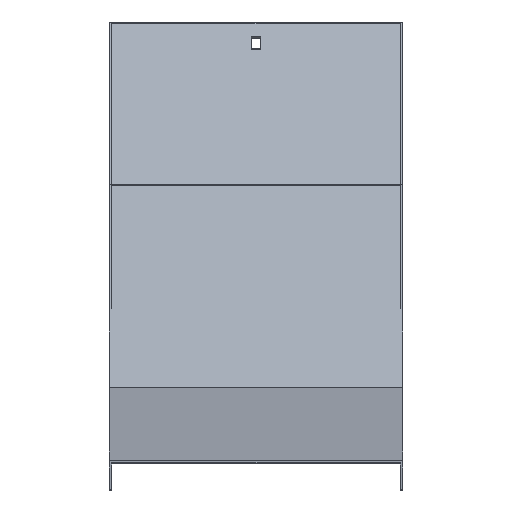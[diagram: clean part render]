
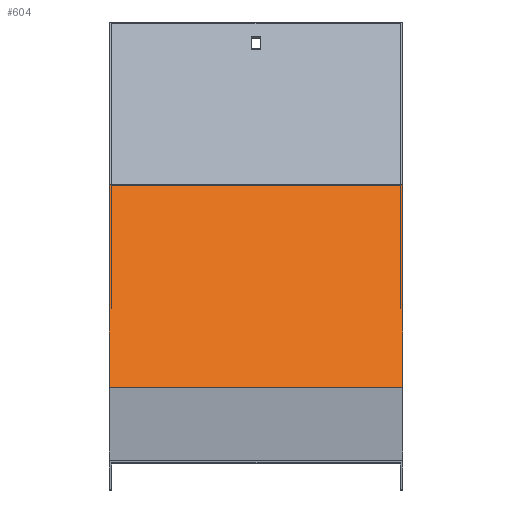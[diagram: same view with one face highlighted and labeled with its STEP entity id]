
A CAD part, top view. The second image highlights one B-rep face of the part: STEP entity #604.
In plain terms, the highlighted planar face has unit normal (0, 0.707, 0.707).
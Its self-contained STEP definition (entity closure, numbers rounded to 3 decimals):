
#18 = CARTESIAN_POINT ( 'NONE',  ( -101.5, 192.219, -462.933 ) ) ;
#21 = DIRECTION ( 'NONE',  ( -1., 0., 0. ) ) ;
#71 = EDGE_LOOP ( 'NONE', ( #470, #119, #413, #741 ) ) ;
#83 = DIRECTION ( 'NONE',  ( -1., 0., 0. ) ) ;
#108 = CARTESIAN_POINT ( 'NONE',  ( -101.5, 51.505, -322.219 ) ) ;
#119 = ORIENTED_EDGE ( 'NONE', *, *, #193, .F. ) ;
#141 = CARTESIAN_POINT ( 'NONE',  ( 101.5, 192.219, -462.933 ) ) ;
#193 = EDGE_CURVE ( 'NONE', #454, #891, #296, .T. ) ;
#201 = EDGE_CURVE ( 'NONE', #454, #528, #312, .T. ) ;
#236 = PLANE ( 'NONE',  #282 ) ;
#244 = VECTOR ( 'NONE', #643, 1000. ) ;
#253 = LINE ( 'NONE', #334, #551 ) ;
#282 = AXIS2_PLACEMENT_3D ( 'NONE', #956, #556, #789 ) ;
#296 = LINE ( 'NONE', #464, #744 ) ;
#301 = EDGE_CURVE ( 'NONE', #891, #544, #253, .T. ) ;
#312 = LINE ( 'NONE', #868, #244 ) ;
#327 = DIRECTION ( 'NONE',  ( 0., 0.707, -0.707 ) ) ;
#334 = CARTESIAN_POINT ( 'NONE',  ( -101.5, 51.505, -322.219 ) ) ;
#413 = ORIENTED_EDGE ( 'NONE', *, *, #201, .T. ) ;
#442 = LINE ( 'NONE', #141, #463 ) ;
#454 = VERTEX_POINT ( 'NONE', #633 ) ;
#463 = VECTOR ( 'NONE', #21, 1000. ) ;
#464 = CARTESIAN_POINT ( 'NONE',  ( 101.5, 51.505, -322.219 ) ) ;
#470 = ORIENTED_EDGE ( 'NONE', *, *, #301, .F. ) ;
#528 = VERTEX_POINT ( 'NONE', #852 ) ;
#544 = VERTEX_POINT ( 'NONE', #18 ) ;
#551 = VECTOR ( 'NONE', #327, 1000. ) ;
#556 = DIRECTION ( 'NONE',  ( 0., 0.707, 0.707 ) ) ;
#566 = EDGE_CURVE ( 'NONE', #528, #544, #442, .T. ) ;
#604 = ADVANCED_FACE ( 'NONE', ( #794 ), #236, .T. ) ;
#633 = CARTESIAN_POINT ( 'NONE',  ( 101.5, 51.505, -322.219 ) ) ;
#643 = DIRECTION ( 'NONE',  ( 0., 0.707, -0.707 ) ) ;
#741 = ORIENTED_EDGE ( 'NONE', *, *, #566, .T. ) ;
#744 = VECTOR ( 'NONE', #83, 1000. ) ;
#789 = DIRECTION ( 'NONE',  ( 0., -0.707, 0.707 ) ) ;
#794 = FACE_OUTER_BOUND ( 'NONE', #71, .T. ) ;
#852 = CARTESIAN_POINT ( 'NONE',  ( 101.5, 192.219, -462.933 ) ) ;
#868 = CARTESIAN_POINT ( 'NONE',  ( 101.5, 51.505, -322.219 ) ) ;
#891 = VERTEX_POINT ( 'NONE', #108 ) ;
#956 = CARTESIAN_POINT ( 'NONE',  ( 101.5, 51.505, -322.219 ) ) ;
